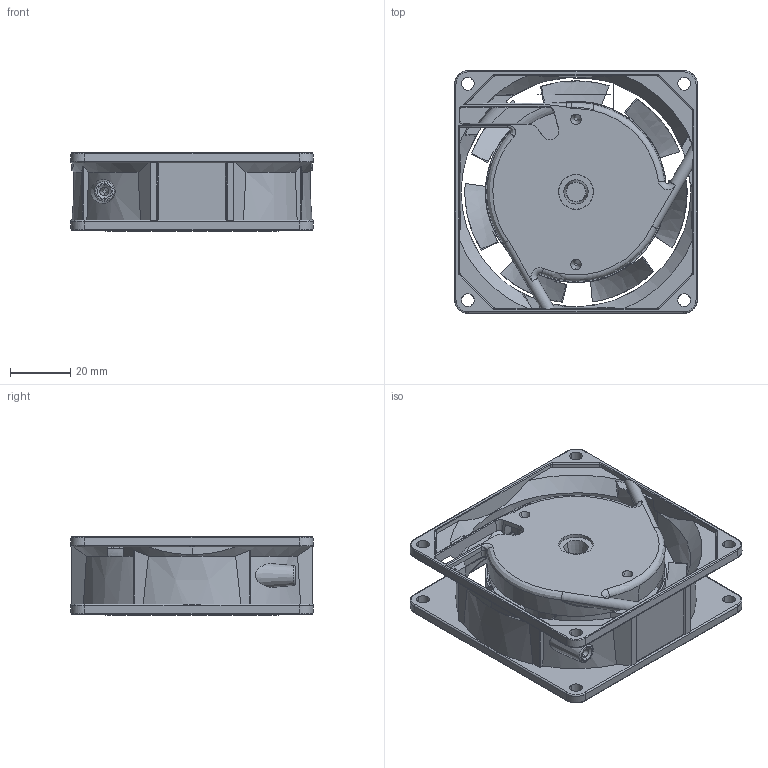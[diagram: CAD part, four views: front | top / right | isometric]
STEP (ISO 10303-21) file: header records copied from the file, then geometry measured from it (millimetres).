
FILE_DESCRIPTION((''),'2;1');
FILE_NAME('80250001_ASM','2019-07-22T',('Administrator'),(''),'PRO/ENGINEER BY PARAMETRIC TECHNOLOGY CORPORATION, 2011370','PRO/ENGINEER BY PARAMETRIC TECHNOLOGY CORPORATION, 2011370','');
FILE_SCHEMA(('CONFIG_CONTROL_DESIGN'));
Length unit declared in the file: millimetre
Products named in the file (3): 8025; 8025A2; 80250001_ASM
Assembly tree (2 placements, depth 2):
  80250001_ASM
    8025
    8025A2
Bounding box: 80.27 x 80.27 x 26 mm (x, y, z)
Volume: 41412.3 mm3; surface area: 45872.7 mm2
Topology: 2 solids, 6 shells, 847 faces, 2447 edges, 1631 vertices
Faces by surface type: plane 466, cylinder 137, bspline 109, cone 89, torus 44, sphere 2
Entity records: 37201 total; most frequent: CARTESIAN_POINT 16041, ORIENTED_EDGE 4834, DIRECTION 3729, EDGE_CURVE 2443, VERTEX_POINT 1631, VECTOR 1315, LINE 1315, AXIS2_PLACEMENT_3D 1207
